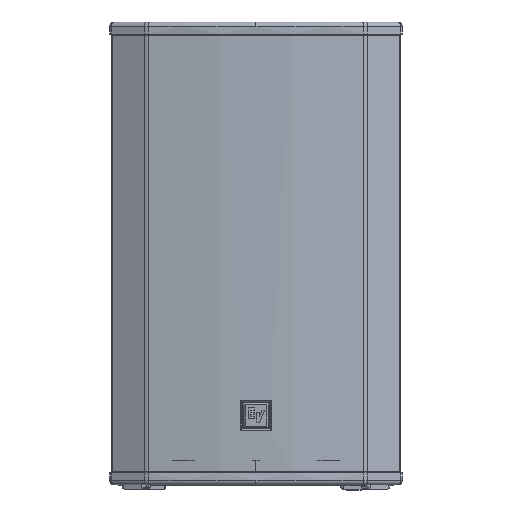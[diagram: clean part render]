
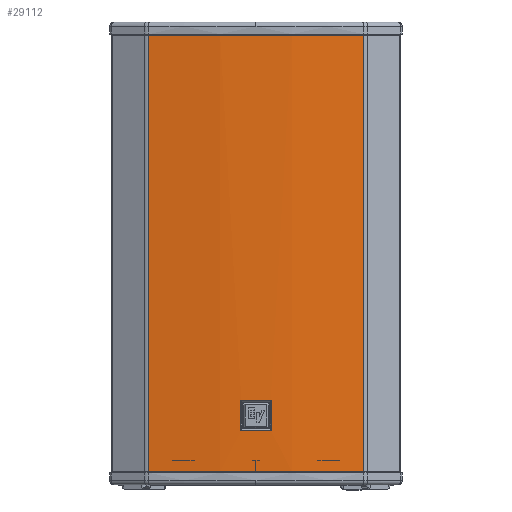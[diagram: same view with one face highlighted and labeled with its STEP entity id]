
A CAD part, top view. The second image highlights one B-rep face of the part: STEP entity #29112.
In plain terms, the highlighted cylindrical face has radius 995.84 mm (diameter 1991.68 mm), a partial arc.
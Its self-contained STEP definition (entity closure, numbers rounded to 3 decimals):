
#92 = CARTESIAN_POINT ( 'NONE',  ( -158.37, 322.326, -11.174 ) ) ;
#1504 = VERTEX_POINT ( 'NONE', #23059 ) ;
#6162 = CIRCLE ( 'NONE', #60025, 995.84 ) ;
#6186 = AXIS2_PLACEMENT_3D ( 'NONE', #59395, #54652, #34640 ) ;
#7393 = CARTESIAN_POINT ( 'NONE',  ( -158.37, 322.326, -11.174 ) ) ;
#7730 = CARTESIAN_POINT ( 'NONE',  ( 21.657, -260.875, 1.264 ) ) ;
#8999 = ORIENTED_EDGE ( 'NONE', *, *, #12482, .F. ) ;
#9676 = CARTESIAN_POINT ( 'NONE',  ( 21.657, -217.617, 1.264 ) ) ;
#12482 = EDGE_CURVE ( 'NONE', #57081, #24348, #38887, .T. ) ;
#14014 = ORIENTED_EDGE ( 'NONE', *, *, #33546, .F. ) ;
#15959 = CARTESIAN_POINT ( 'NONE',  ( -21.657, -260.875, 1.264 ) ) ;
#15969 = DIRECTION ( 'NONE',  ( 0., -1., 0. ) ) ;
#16997 = CARTESIAN_POINT ( 'NONE',  ( -21.657, -217.617, 1.264 ) ) ;
#17416 = VERTEX_POINT ( 'NONE', #45835 ) ;
#17608 = CARTESIAN_POINT ( 'NONE',  ( -7.221, -217.617, 1.579 ) ) ;
#18723 = CARTESIAN_POINT ( 'NONE',  ( -21.657, -217.617, 1.264 ) ) ;
#19279 = LINE ( 'NONE', #25035, #29114 ) ;
#19521 = LINE ( 'NONE', #28486, #58151 ) ;
#19778 = LINE ( 'NONE', #92, #24631 ) ;
#19992 = EDGE_CURVE ( 'NONE', #17416, #52716, #6162, .T. ) ;
#20586 = CYLINDRICAL_SURFACE ( 'NONE', #6186, 995.84 ) ;
#20909 = FACE_BOUND ( 'NONE', #36422, .T. ) ;
#21395 = ORIENTED_EDGE ( 'NONE', *, *, #31520, .T. ) ;
#22370 = DIRECTION ( 'NONE',  ( -0.311, 0., 0.95 ) ) ;
#22717 = CARTESIAN_POINT ( 'NONE',  ( 21.657, -217.617, 1.264 ) ) ;
#23059 = CARTESIAN_POINT ( 'NONE',  ( 158.37, 322.326, -11.174 ) ) ;
#23502 = CARTESIAN_POINT ( 'NONE',  ( -21.657, -260.875, 1.264 ) ) ;
#24342 = VERTEX_POINT ( 'NONE', #18723 ) ;
#24348 = VERTEX_POINT ( 'NONE', #7730 ) ;
#24631 = VECTOR ( 'NONE', #15969, 1000. ) ;
#25035 = CARTESIAN_POINT ( 'NONE',  ( -21.657, -217.617, 1.264 ) ) ;
#25220 = CARTESIAN_POINT ( 'NONE',  ( -7.221, -260.875, 1.579 ) ) ;
#25537 = CARTESIAN_POINT ( 'NONE',  ( 7.221, -260.875, 1.579 ) ) ;
#25985 = CIRCLE ( 'NONE', #48385, 995.84 ) ;
#26287 = DIRECTION ( 'NONE',  ( -0.311, 0., 0.95 ) ) ;
#26365 = VERTEX_POINT ( 'NONE', #9676 ) ;
#28486 = CARTESIAN_POINT ( 'NONE',  ( 21.657, -260.875, 1.264 ) ) ;
#29112 = ADVANCED_FACE ( 'NONE', ( #20909, #45471 ), #20586, .T. ) ;
#29114 = VECTOR ( 'NONE', #34593, 1000. ) ;
#30366 = EDGE_CURVE ( 'NONE', #26365, #24342, #52722, .T. ) ;
#31520 = EDGE_CURVE ( 'NONE', #56279, #52716, #19778, .T. ) ;
#32772 = CARTESIAN_POINT ( 'NONE',  ( 158.37, 322.326, -11.174 ) ) ;
#32887 = CARTESIAN_POINT ( 'NONE',  ( 0., -322.326, -994.34 ) ) ;
#33546 = EDGE_CURVE ( 'NONE', #56279, #1504, #25985, .T. ) ;
#33583 = DIRECTION ( 'NONE',  ( 0., 1., 0. ) ) ;
#34593 = DIRECTION ( 'NONE',  ( 0., -1., 0. ) ) ;
#34640 = DIRECTION ( 'NONE',  ( -0.311, 0., 0.95 ) ) ;
#36140 = DIRECTION ( 'NONE',  ( 0., 1., 0. ) ) ;
#36422 = EDGE_LOOP ( 'NONE', ( #42137, #37545, #8999, #48510 ) ) ;
#36753 = CARTESIAN_POINT ( 'NONE',  ( 7.221, -217.617, 1.579 ) ) ;
#37156 = VECTOR ( 'NONE', #52807, 1000. ) ;
#37225 = LINE ( 'NONE', #32772, #37156 ) ;
#37421 = EDGE_CURVE ( 'NONE', #24342, #57081, #19279, .T. ) ;
#37545 = ORIENTED_EDGE ( 'NONE', *, *, #42762, .F. ) ;
#37730 = EDGE_LOOP ( 'NONE', ( #48621, #48161, #14014, #21395 ) ) ;
#38887 = B_SPLINE_CURVE_WITH_KNOTS ( 'NONE', 3,
 ( #15959, #25220, #25537, #61034 ),
 .UNSPECIFIED., .F., .F.,
 ( 4, 4 ),
 ( 0., 0.043 ),
 .UNSPECIFIED. ) ;
#40599 = CARTESIAN_POINT ( 'NONE',  ( 0., 322.326, -994.34 ) ) ;
#42137 = ORIENTED_EDGE ( 'NONE', *, *, #30366, .F. ) ;
#42762 = EDGE_CURVE ( 'NONE', #24348, #26365, #19521, .T. ) ;
#45201 = CARTESIAN_POINT ( 'NONE',  ( -158.37, -322.326, -11.174 ) ) ;
#45471 = FACE_OUTER_BOUND ( 'NONE', #37730, .T. ) ;
#45835 = CARTESIAN_POINT ( 'NONE',  ( 158.37, -322.326, -11.174 ) ) ;
#47530 = DIRECTION ( 'NONE',  ( 0., -1., 0. ) ) ;
#48161 = ORIENTED_EDGE ( 'NONE', *, *, #62922, .F. ) ;
#48385 = AXIS2_PLACEMENT_3D ( 'NONE', #40599, #36140, #26287 ) ;
#48510 = ORIENTED_EDGE ( 'NONE', *, *, #37421, .F. ) ;
#48621 = ORIENTED_EDGE ( 'NONE', *, *, #19992, .F. ) ;
#52716 = VERTEX_POINT ( 'NONE', #45201 ) ;
#52722 = B_SPLINE_CURVE_WITH_KNOTS ( 'NONE', 3,
 ( #22717, #36753, #17608, #16997 ),
 .UNSPECIFIED., .F., .F.,
 ( 4, 4 ),
 ( 0., 0.043 ),
 .UNSPECIFIED. ) ;
#52807 = DIRECTION ( 'NONE',  ( 0., -1., 0. ) ) ;
#54652 = DIRECTION ( 'NONE',  ( 0., 1., 0. ) ) ;
#56279 = VERTEX_POINT ( 'NONE', #7393 ) ;
#57081 = VERTEX_POINT ( 'NONE', #23502 ) ;
#58151 = VECTOR ( 'NONE', #33583, 1000. ) ;
#59395 = CARTESIAN_POINT ( 'NONE',  ( 0., -719.295, -994.34 ) ) ;
#60025 = AXIS2_PLACEMENT_3D ( 'NONE', #32887, #47530, #22370 ) ;
#61034 = CARTESIAN_POINT ( 'NONE',  ( 21.657, -260.875, 1.264 ) ) ;
#62922 = EDGE_CURVE ( 'NONE', #1504, #17416, #37225, .T. ) ;
